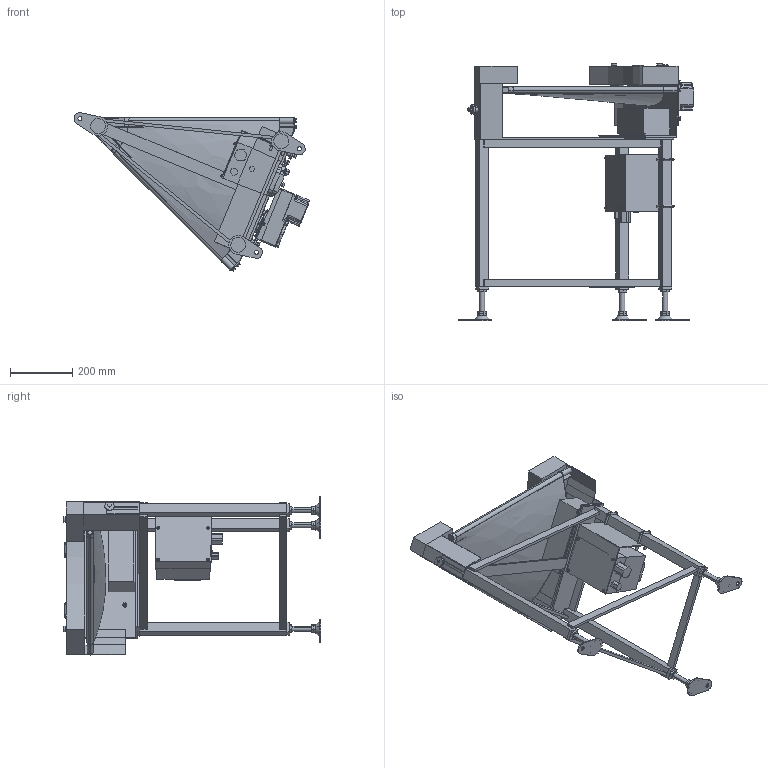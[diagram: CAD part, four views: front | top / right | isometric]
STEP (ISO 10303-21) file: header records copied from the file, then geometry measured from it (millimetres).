
FILE_DESCRIPTION( (''), '2;1');
FILE_NAME ('GFBC-HS-309-400-45°-L-DC-30.stp','2025-01-31T16:07:00',(''),(''),'spGate 20.6.2 (****-****-****-****)','','');
FILE_SCHEMA (('AUTOMOTIVE_DESIGN'));
Length unit declared in the file: millimetre
Products named in the file (66): NewModel; TEMP_X_T-prt0; TEMP_X_T-prt1; TEMP_X_T-prt2; TEMP_X_T-prt3; TEMP_X_T-prt4; TEMP_X_T-prt5; TEMP_X_T-prt6; TEMP_X_T-prt7; TEMP_X_T-prt8; TEMP_X_T-prt9; TEMP_X_T-prt10; TEMP_X_T-prt11; TEMP_X_T-prt12; TEMP_X_T-prt13; TEMP_X_T-prt14; TEMP_X_T-prt15; TEMP_X_T-prt16; TEMP_X_T-prt17; TEMP_X_T-prt18; TEMP_X_T-prt19; TEMP_X_T-prt20; TEMP_X_T-prt21; TEMP_X_T-prt22; TEMP_X_T-prt23; TEMP_X_T-prt24; TEMP_X_T-prt25; TEMP_X_T-prt26; TEMP_X_T-prt27; TEMP_X_T-prt28; TEMP_X_T-prt29; TEMP_X_T-prt30; TEMP_X_T-prt31; TEMP_X_T-prt32; TEMP_X_T-prt33; TEMP_X_T-prt34; TEMP_X_T-prt35; TEMP_X_T-prt36; TEMP_X_T-prt37; TEMP_X_T-prt38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
Assembly tree (65 placements, depth 2):
  NewModel
    TEMP_X_T-prt0
    TEMP_X_T-prt1
    TEMP_X_T-prt2
    TEMP_X_T-prt3
    TEMP_X_T-prt4
    TEMP_X_T-prt5
    TEMP_X_T-prt6
    TEMP_X_T-prt7
    TEMP_X_T-prt8
    TEMP_X_T-prt9
    TEMP_X_T-prt10
    TEMP_X_T-prt11
    TEMP_X_T-prt12
    TEMP_X_T-prt13
    TEMP_X_T-prt14
    TEMP_X_T-prt15
    TEMP_X_T-prt16
    TEMP_X_T-prt17
    TEMP_X_T-prt18
    TEMP_X_T-prt19
    TEMP_X_T-prt20
    TEMP_X_T-prt21
    TEMP_X_T-prt22
    TEMP_X_T-prt23
    TEMP_X_T-prt24
    TEMP_X_T-prt25
    TEMP_X_T-prt26
    TEMP_X_T-prt27
    TEMP_X_T-prt28
    TEMP_X_T-prt29
    TEMP_X_T-prt30
    TEMP_X_T-prt31
    TEMP_X_T-prt32
    TEMP_X_T-prt33
    TEMP_X_T-prt34
    TEMP_X_T-prt35
    TEMP_X_T-prt36
    TEMP_X_T-prt37
    TEMP_X_T-prt38
    TEMP_X_T-prt39
    TEMP_X_T-prt40
    TEMP_X_T-prt41
    TEMP_X_T-prt42
    TEMP_X_T-prt43
    TEMP_X_T-prt44
    TEMP_X_T-prt45
    TEMP_X_T-prt46
    TEMP_X_T-prt47
    TEMP_X_T-prt48
    TEMP_X_T-prt49
    TEMP_X_T-prt50
    TEMP_X_T-prt51
    TEMP_X_T-prt52
    TEMP_X_T-prt53
    TEMP_X_T-prt54
    TEMP_X_T-prt55
    TEMP_X_T-prt56
    TEMP_X_T-prt57
    TEMP_X_T-prt58
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Bounding box: 757.6 x 827.92 x 509.37 mm (x, y, z)
Volume: 14862654.9 mm3; surface area: 2683876.7 mm2
Topology: 65 solids, 65 shells, 1382 faces, 3251 edges, 2080 vertices
Faces by surface type: plane 871, cylinder 406, bspline 101, sphere 4
Entity records: 73380 total; most frequent: CARTESIAN_POINT 12692, DIRECTION 6818, ORIENTED_EDGE 6440, COLOUR_RGB 4667, PRESENTATION_STYLE_ASSIGNMENT 4667, STYLED_ITEM 4667, EDGE_CURVE 3220, DRAUGHTING_PRE_DEFINED_CURVE_FONT 3220
